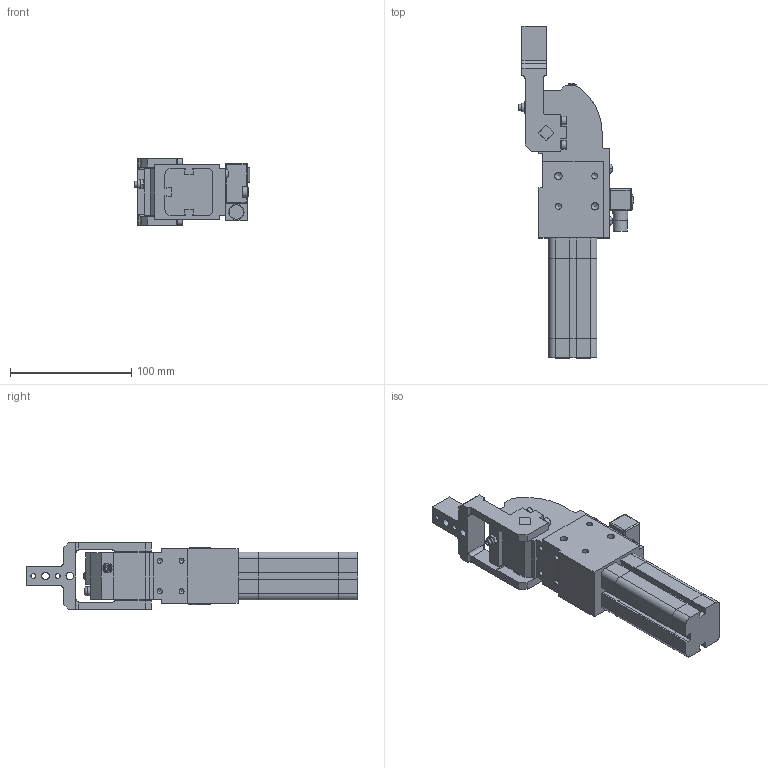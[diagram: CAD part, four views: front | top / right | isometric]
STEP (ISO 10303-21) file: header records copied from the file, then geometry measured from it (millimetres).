
FILE_DESCRIPTION(/* description */ (''),/* implementation_level */ '2;1');
FILE_NAME(/* name */ 'S:\Tom\INVENTOR FILES\AUTOMOTIVE\CLAMPS\XSM 25 HO\SAT FILES\MODEL CYLINDER UPDATE 030217\sats\XSM225_1.stp',/* time_stamp */ '2017-02-06T16:51:24+00:00',/* author */ ('carl'),/* organization */ (''),/* preprocessor_version */ 'ST-DEVELOPER v16.1',/* originating_system */ 'Autodesk Inventor 2016',/* authorisation */ '');
FILE_SCHEMA (('AUTOMOTIVE_DESIGN { 1 0 10303 214 3 1 1 }'));
Length unit declared in the file: millimetre
Products named in the file (4): XSM225_1_1; XSM225_1_2; XSM225_1_3; XSM225_1
Assembly tree (3 placements, depth 2):
  XSM225_1
    XSM225_1_1
    XSM225_1_2
    XSM225_1_3
Bounding box: 94.96 x 273.25 x 55.59 mm (x, y, z)
Volume: 475493 mm3; surface area: 73999.9 mm2
Topology: 3 solids, 4 shells, 461 faces, 1163 edges, 718 vertices
Faces by surface type: plane 314, cylinder 96, cone 29, bspline 8, sphere 8, torus 6
Full cylindrical faces by diameter (mm): 0.7 x4, 4 x7, 4.134 x4, 4.959 x4, 5 x1, 6 x5, 6.2 x2, 6.9 x1, 7 x4, 7.579 x1, 7.6 x4, 8.5 x1, 8.566 x2, 10.7 x1, 11.7 x1, 12 x2, 20 x2
Entity records: 13201 total; most frequent: CARTESIAN_POINT 2754, DIRECTION 2139, ORIENTED_EDGE 2066, EDGE_CURVE 1033, AXIS2_PLACEMENT_3D 722, LINE 695, VECTOR 695, VERTEX_POINT 675
